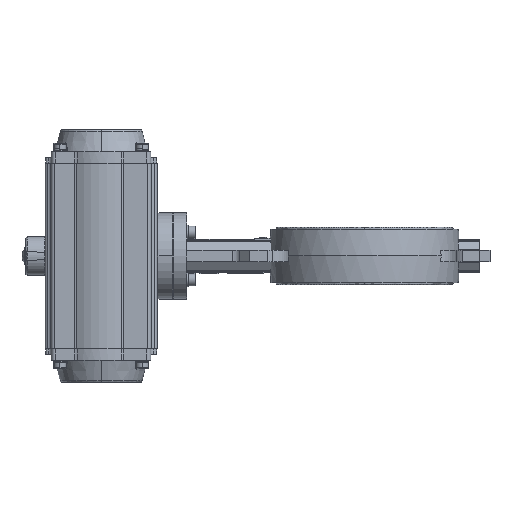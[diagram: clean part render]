
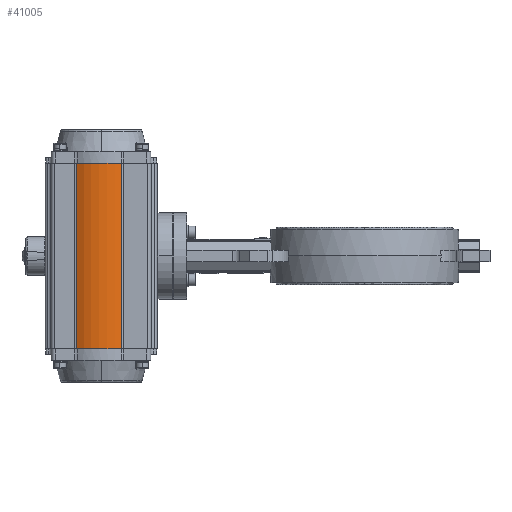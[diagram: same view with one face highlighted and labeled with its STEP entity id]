
A CAD part, left-side view. The second image highlights one B-rep face of the part: STEP entity #41005.
In plain terms, the highlighted cylindrical face has radius 50 mm (diameter 100 mm), a partial arc.
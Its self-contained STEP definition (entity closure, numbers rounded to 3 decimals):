
#2756 = CARTESIAN_POINT ( 'NONE',  ( -43.182, 300.706, -97. ) ) ;
#10295 = DIRECTION ( 'NONE',  ( 0., 0., -1. ) ) ;
#10719 = EDGE_CURVE ( 'NONE', #73253, #28686, #32990, .T. ) ;
#15943 = ORIENTED_EDGE ( 'NONE', *, *, #38612, .T. ) ;
#16734 = DIRECTION ( 'NONE',  ( 0., 0., 1. ) ) ;
#18838 = DIRECTION ( 'NONE',  ( 1., 0., 0. ) ) ;
#22844 = LINE ( 'NONE', #2756, #92677 ) ;
#24587 = DIRECTION ( 'NONE',  ( 1., 0., 0. ) ) ;
#25196 = ORIENTED_EDGE ( 'NONE', *, *, #70383, .T. ) ;
#28460 = ORIENTED_EDGE ( 'NONE', *, *, #36801, .F. ) ;
#28686 = VERTEX_POINT ( 'NONE', #35136 ) ;
#31827 = VECTOR ( 'NONE', #58466, 1000. ) ;
#32990 = LINE ( 'NONE', #50289, #31827 ) ;
#34988 = EDGE_LOOP ( 'NONE', ( #28460, #25196, #15943, #66792 ) ) ;
#35136 = CARTESIAN_POINT ( 'NONE',  ( -45., 253.706, 97. ) ) ;
#36801 = EDGE_CURVE ( 'NONE', #47263, #28686, #48315, .T. ) ;
#38612 = EDGE_CURVE ( 'NONE', #62218, #73253, #39611, .T. ) ;
#39347 = CARTESIAN_POINT ( 'NONE',  ( -43.182, 300.706, 97. ) ) ;
#39611 = CIRCLE ( 'NONE', #46255, 50. ) ;
#40393 = DIRECTION ( 'NONE',  ( 1., 0., 0. ) ) ;
#41005 = ADVANCED_FACE ( 'NONE', ( #90877 ), #65096, .T. ) ;
#46255 = AXIS2_PLACEMENT_3D ( 'NONE', #95819, #71859, #40393 ) ;
#47263 = VERTEX_POINT ( 'NONE', #39347 ) ;
#48315 = CIRCLE ( 'NONE', #80036, 50. ) ;
#50289 = CARTESIAN_POINT ( 'NONE',  ( -45., 253.706, -349.898 ) ) ;
#58466 = DIRECTION ( 'NONE',  ( 0., 0., 1. ) ) ;
#62218 = VERTEX_POINT ( 'NONE', #96053 ) ;
#65096 = CYLINDRICAL_SURFACE ( 'NONE', #101446, 50. ) ;
#66792 = ORIENTED_EDGE ( 'NONE', *, *, #10719, .T. ) ;
#69078 = CARTESIAN_POINT ( 'NONE',  ( 0., 275.5, -97. ) ) ;
#70383 = EDGE_CURVE ( 'NONE', #47263, #62218, #22844, .T. ) ;
#71859 = DIRECTION ( 'NONE',  ( 0., 0., 1. ) ) ;
#73253 = VERTEX_POINT ( 'NONE', #88446 ) ;
#80036 = AXIS2_PLACEMENT_3D ( 'NONE', #97211, #89681, #18838 ) ;
#88446 = CARTESIAN_POINT ( 'NONE',  ( -45., 253.706, -97. ) ) ;
#89681 = DIRECTION ( 'NONE',  ( 0., 0., 1. ) ) ;
#90877 = FACE_OUTER_BOUND ( 'NONE', #34988, .T. ) ;
#92677 = VECTOR ( 'NONE', #10295, 1000. ) ;
#95819 = CARTESIAN_POINT ( 'NONE',  ( 0., 275.5, -97. ) ) ;
#96053 = CARTESIAN_POINT ( 'NONE',  ( -43.182, 300.706, -97. ) ) ;
#97211 = CARTESIAN_POINT ( 'NONE',  ( 0., 275.5, 97. ) ) ;
#101446 = AXIS2_PLACEMENT_3D ( 'NONE', #69078, #16734, #24587 ) ;
